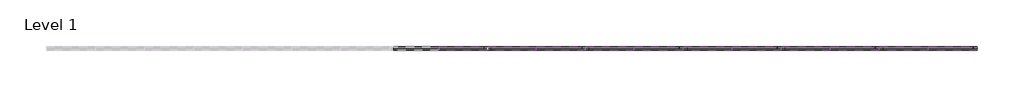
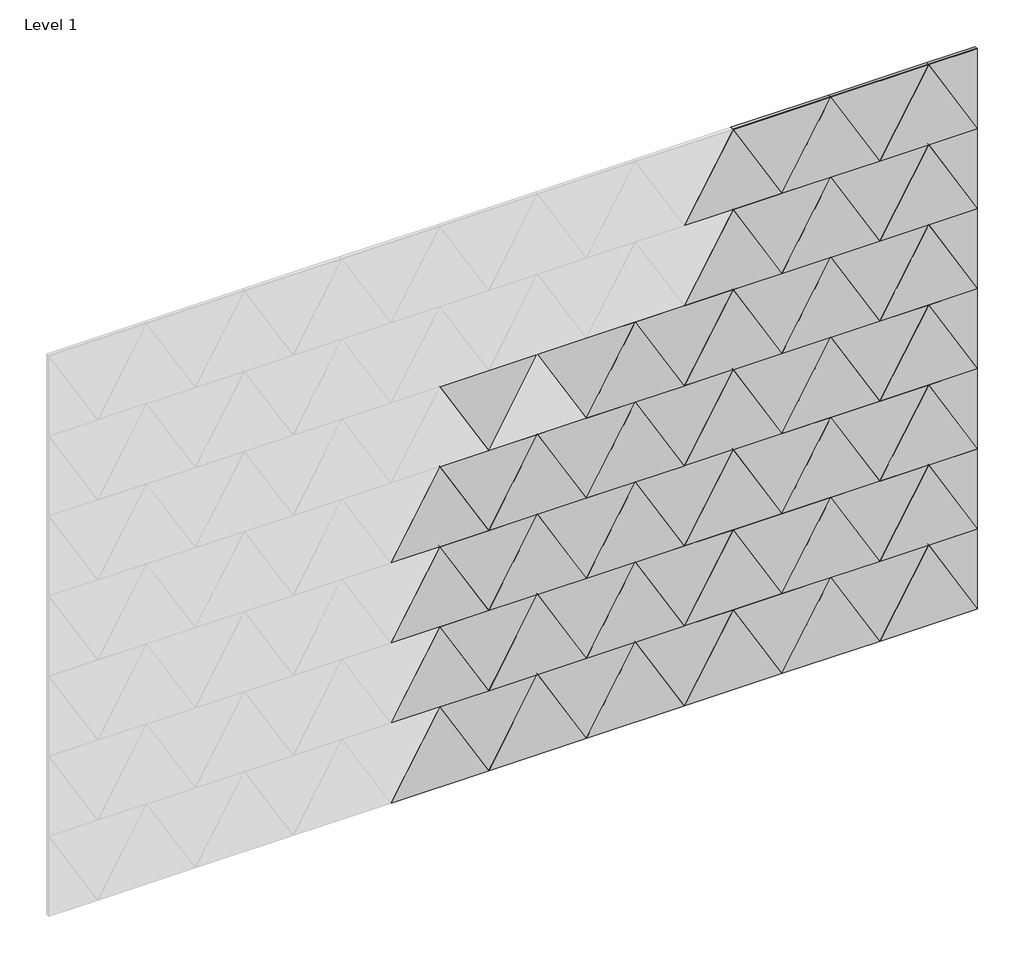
# One storey, part 2 of 2: 70 proxies.
"""IFC4 building model written with IfcOpenShell, lengths in millimetres."""

from ifc_helpers import new_model, si_unit, origin, place, context, project, spatial, transform, mapped, element, save
from components import triangle_60_block_95fa7baf, triangle_60_block_31d98bf3

model = new_model("IFC4")

# Units and contexts
model_context = context("Model", 3, world=origin())
ifc_project = project(units=[si_unit("LENGTHUNIT", "METRE", prefix="MILLI")], contexts=[model_context])

# Site, building, storey
site = spatial("IfcSite", under=ifc_project)
building = spatial("IfcBuilding", under=site)
storey = spatial("IfcBuildingStorey", under=building, Name="Level 1", Elevation=0.0)

# Proxies
placement = place(None, origin())
triangle_60_block_shape = triangle_60_block_95fa7baf(model_context)
element("IfcBuildingElementProxy", 1, Name="FilzFelt_Triangle_60_Block : Triangle 60 Block", ObjectType="FilzFelt_Triangle_60_Block : Triangle 60 Block", at=placement, inside=storey, context=model_context, shape_type="MappedRepresentation", body=[
    mapped(triangle_60_block_shape, transform((49120.93659, -3215.9647205, 2243.3090029), x_axis=(1.0, 0.0, 0.0), y_axis=(0.0, 0.0, 1.0), z_axis=(0.0, -1.0, 0.0))),
])
element("IfcBuildingElementProxy", 2, Name="FilzFelt_Triangle_60_Block : Triangle 60 Block", ObjectType="FilzFelt_Triangle_60_Block : Triangle 60 Block", at=placement, inside=storey, context=model_context, shape_type="MappedRepresentation", body=[
    mapped(triangle_60_block_shape, transform((49473.36159, -3215.9647205, 2243.3090029), x_axis=(1.0, 0.0, 0.0), y_axis=(0.0, 0.0, 1.0), z_axis=(0.0, -1.0, 0.0))),
])
element("IfcBuildingElementProxy", 3, Name="FilzFelt_Triangle_60_Block : Triangle 60 Block", ObjectType="FilzFelt_Triangle_60_Block : Triangle 60 Block", at=placement, inside=storey, context=model_context, shape_type="MappedRepresentation", body=[
    mapped(triangle_60_block_shape, transform((49297.14909, -3215.9647205, 1938.3090029), x_axis=(-1.0, 0.0, 0.0), y_axis=(0.0, 0.0, -1.0), z_axis=(0.0, -1.0, 0.0))),
])
element("IfcBuildingElementProxy", 4, Name="FilzFelt_Triangle_60_Block : Triangle 60 Block", ObjectType="FilzFelt_Triangle_60_Block : Triangle 60 Block", at=placement, inside=storey, context=model_context, shape_type="MappedRepresentation", body=[
    mapped(triangle_60_block_shape, transform((48768.51159, -3215.9647205, 1632.8909971), x_axis=(1.0, 0.0, 0.0), y_axis=(0.0, 0.0, 1.0), z_axis=(0.0, -1.0, 0.0))),
])
element("IfcBuildingElementProxy", 5, Name="FilzFelt_Triangle_60_Block : Triangle 60 Block", ObjectType="FilzFelt_Triangle_60_Block : Triangle 60 Block", at=placement, inside=storey, context=model_context, shape_type="MappedRepresentation", body=[
    mapped(triangle_60_block_shape, transform((49120.93659, -3215.9647205, 1632.8909971), x_axis=(1.0, 0.0, 0.0), y_axis=(0.0, 0.0, 1.0), z_axis=(0.0, -1.0, 0.0))),
])
element("IfcBuildingElementProxy", 6, Name="FilzFelt_Triangle_60_Block : Triangle 60 Block", ObjectType="FilzFelt_Triangle_60_Block : Triangle 60 Block", at=placement, inside=storey, context=model_context, shape_type="MappedRepresentation", body=[
    mapped(triangle_60_block_shape, transform((49473.36159, -3215.9647205, 1632.8909971), x_axis=(1.0, 0.0, 0.0), y_axis=(0.0, 0.0, 1.0), z_axis=(0.0, -1.0, 0.0))),
])
element("IfcBuildingElementProxy", 7, Name="FilzFelt_Triangle_60_Block : Triangle 60 Block", ObjectType="FilzFelt_Triangle_60_Block : Triangle 60 Block", at=placement, inside=storey, context=model_context, shape_type="MappedRepresentation", body=[
    mapped(triangle_60_block_shape, transform((48239.87409, -3215.9647205, 1327.8909971), x_axis=(-1.0, 0.0, 0.0), y_axis=(0.0, 0.0, -1.0), z_axis=(0.0, -1.0, 0.0))),
])
element("IfcBuildingElementProxy", 8, Name="FilzFelt_Triangle_60_Block : Triangle 60 Block", ObjectType="FilzFelt_Triangle_60_Block : Triangle 60 Block", at=placement, inside=storey, context=model_context, shape_type="MappedRepresentation", body=[
    mapped(triangle_60_block_shape, transform((48592.29909, -3215.9647205, 1327.8909971), x_axis=(-1.0, 0.0, 0.0), y_axis=(0.0, 0.0, -1.0), z_axis=(0.0, -1.0, 0.0))),
])
element("IfcBuildingElementProxy", 9, Name="FilzFelt_Triangle_60_Block : Triangle 60 Block", ObjectType="FilzFelt_Triangle_60_Block : Triangle 60 Block", at=placement, inside=storey, context=model_context, shape_type="MappedRepresentation", body=[
    mapped(triangle_60_block_shape, transform((48944.72409, -3215.9647205, 1327.8909971), x_axis=(-1.0, 0.0, 0.0), y_axis=(0.0, 0.0, -1.0), z_axis=(0.0, -1.0, 0.0))),
])
element("IfcBuildingElementProxy", 10, Name="FilzFelt_Triangle_60_Block : Triangle 60 Block", ObjectType="FilzFelt_Triangle_60_Block : Triangle 60 Block", at=placement, inside=storey, context=model_context, shape_type="MappedRepresentation", body=[
    mapped(triangle_60_block_shape, transform((49297.14909, -3215.9647205, 1327.8909971), x_axis=(-1.0, 0.0, 0.0), y_axis=(0.0, 0.0, -1.0), z_axis=(0.0, -1.0, 0.0))),
])
element("IfcBuildingElementProxy", 11, Name="FilzFelt_Triangle_60_Block : Triangle 60 Block", ObjectType="FilzFelt_Triangle_60_Block : Triangle 60 Block", at=placement, inside=storey, context=model_context, shape_type="MappedRepresentation", body=[
    mapped(triangle_60_block_shape, transform((48063.66159, -3215.9647205, 1022.4729912), x_axis=(1.0, 0.0, 0.0), y_axis=(0.0, 0.0, 1.0), z_axis=(0.0, -1.0, 0.0))),
])
element("IfcBuildingElementProxy", 12, Name="FilzFelt_Triangle_60_Block : Triangle 60 Block", ObjectType="FilzFelt_Triangle_60_Block : Triangle 60 Block", at=placement, inside=storey, context=model_context, shape_type="MappedRepresentation", body=[
    mapped(triangle_60_block_shape, transform((48416.08659, -3215.9647205, 1022.4729912), x_axis=(1.0, 0.0, 0.0), y_axis=(0.0, 0.0, 1.0), z_axis=(0.0, -1.0, 0.0))),
])
element("IfcBuildingElementProxy", 13, Name="FilzFelt_Triangle_60_Block : Triangle 60 Block", ObjectType="FilzFelt_Triangle_60_Block : Triangle 60 Block", at=placement, inside=storey, context=model_context, shape_type="MappedRepresentation", body=[
    mapped(triangle_60_block_shape, transform((48768.51159, -3215.9647205, 1022.4729912), x_axis=(1.0, 0.0, 0.0), y_axis=(0.0, 0.0, 1.0), z_axis=(0.0, -1.0, 0.0))),
])
element("IfcBuildingElementProxy", 14, Name="FilzFelt_Triangle_60_Block : Triangle 60 Block", ObjectType="FilzFelt_Triangle_60_Block : Triangle 60 Block", at=placement, inside=storey, context=model_context, shape_type="MappedRepresentation", body=[
    mapped(triangle_60_block_shape, transform((49120.93659, -3215.9647205, 1022.4729912), x_axis=(1.0, 0.0, 0.0), y_axis=(0.0, 0.0, 1.0), z_axis=(0.0, -1.0, 0.0))),
])
element("IfcBuildingElementProxy", 15, Name="FilzFelt_Triangle_60_Block : Triangle 60 Block", ObjectType="FilzFelt_Triangle_60_Block : Triangle 60 Block", at=placement, inside=storey, context=model_context, shape_type="MappedRepresentation", body=[
    mapped(triangle_60_block_shape, transform((49473.36159, -3215.9647205, 1022.4729912), x_axis=(1.0, 0.0, 0.0), y_axis=(0.0, 0.0, 1.0), z_axis=(0.0, -1.0, 0.0))),
])
element("IfcBuildingElementProxy", 16, Name="FilzFelt_Triangle_60_Block : Triangle 60 Block", ObjectType="FilzFelt_Triangle_60_Block : Triangle 60 Block", at=placement, inside=storey, context=model_context, shape_type="MappedRepresentation", body=[
    mapped(triangle_60_block_shape, transform((48239.87409, -3215.9647205, 717.4729912), x_axis=(-1.0, 0.0, 0.0), y_axis=(0.0, 0.0, -1.0), z_axis=(0.0, -1.0, 0.0))),
])
element("IfcBuildingElementProxy", 17, Name="FilzFelt_Triangle_60_Block : Triangle 60 Block", ObjectType="FilzFelt_Triangle_60_Block : Triangle 60 Block", at=placement, inside=storey, context=model_context, shape_type="MappedRepresentation", body=[
    mapped(triangle_60_block_shape, transform((48592.29909, -3215.9647205, 717.4729912), x_axis=(-1.0, 0.0, 0.0), y_axis=(0.0, 0.0, -1.0), z_axis=(0.0, -1.0, 0.0))),
])
element("IfcBuildingElementProxy", 18, Name="FilzFelt_Triangle_60_Block : Triangle 60 Block", ObjectType="FilzFelt_Triangle_60_Block : Triangle 60 Block", at=placement, inside=storey, context=model_context, shape_type="MappedRepresentation", body=[
    mapped(triangle_60_block_shape, transform((48944.72409, -3215.9647205, 717.4729912), x_axis=(-1.0, 0.0, 0.0), y_axis=(0.0, 0.0, -1.0), z_axis=(0.0, -1.0, 0.0))),
])
element("IfcBuildingElementProxy", 19, Name="FilzFelt_Triangle_60_Block : Triangle 60 Block", ObjectType="FilzFelt_Triangle_60_Block : Triangle 60 Block", at=placement, inside=storey, context=model_context, shape_type="MappedRepresentation", body=[
    mapped(triangle_60_block_shape, transform((49297.14909, -3215.9647205, 717.4729912), x_axis=(-1.0, 0.0, 0.0), y_axis=(0.0, 0.0, -1.0), z_axis=(0.0, -1.0, 0.0))),
])
element("IfcBuildingElementProxy", 20, Name="FilzFelt_Triangle_60_Block : Triangle 60 Block", ObjectType="FilzFelt_Triangle_60_Block : Triangle 60 Block", at=placement, inside=storey, context=model_context, shape_type="MappedRepresentation", body=[
    mapped(triangle_60_block_shape, transform((49825.78659, -3215.9647205, 2243.3090029), x_axis=(1.0, 0.0, 0.0), y_axis=(0.0, 0.0, 1.0), z_axis=(0.0, -1.0, 0.0))),
])
element("IfcBuildingElementProxy", 21, Name="FilzFelt_Triangle_60_Block : Triangle 60 Block", ObjectType="FilzFelt_Triangle_60_Block : Triangle 60 Block", at=placement, inside=storey, context=model_context, shape_type="MappedRepresentation", body=[
    mapped(triangle_60_block_shape, transform((49825.78659, -3215.9647205, 1632.8909971), x_axis=(1.0, 0.0, 0.0), y_axis=(0.0, 0.0, 1.0), z_axis=(0.0, -1.0, 0.0))),
])
element("IfcBuildingElementProxy", 22, Name="FilzFelt_Triangle_60_Block : Triangle 60 Block", ObjectType="FilzFelt_Triangle_60_Block : Triangle 60 Block", at=placement, inside=storey, context=model_context, shape_type="MappedRepresentation", body=[
    mapped(triangle_60_block_shape, transform((49825.78659, -3215.9647205, 1022.4729912), x_axis=(1.0, 0.0, 0.0), y_axis=(0.0, 0.0, 1.0), z_axis=(0.0, -1.0, 0.0))),
])
element("IfcBuildingElementProxy", 23, Name="FilzFelt_Triangle_60_Block : Triangle 60 Block", ObjectType="FilzFelt_Triangle_60_Block : Triangle 60 Block", at=placement, inside=storey, context=model_context, shape_type="MappedRepresentation", body=[
    mapped(triangle_60_block_shape, transform((49649.57409, -3215.9647205, 1938.3090029), x_axis=(-1.0, 0.0, 0.0), y_axis=(0.0, 0.0, -1.0), z_axis=(0.0, -1.0, 0.0))),
])
element("IfcBuildingElementProxy", 24, Name="FilzFelt_Triangle_60_Block : Triangle 60 Block", ObjectType="FilzFelt_Triangle_60_Block : Triangle 60 Block", at=placement, inside=storey, context=model_context, shape_type="MappedRepresentation", body=[
    mapped(triangle_60_block_shape, transform((49649.57409, -3215.9647205, 1327.8909971), x_axis=(-1.0, 0.0, 0.0), y_axis=(0.0, 0.0, -1.0), z_axis=(0.0, -1.0, 0.0))),
])
element("IfcBuildingElementProxy", 25, Name="FilzFelt_Triangle_60_Block : Triangle 60 Block", ObjectType="FilzFelt_Triangle_60_Block : Triangle 60 Block", at=placement, inside=storey, context=model_context, shape_type="MappedRepresentation", body=[
    mapped(triangle_60_block_shape, transform((49649.57409, -3215.9647205, 717.4729912), x_axis=(-1.0, 0.0, 0.0), y_axis=(0.0, 0.0, -1.0), z_axis=(0.0, -1.0, 0.0))),
])
element("IfcBuildingElementProxy", 26, Name="FilzFelt_Triangle_60_Block : Triangle 60 Block", ObjectType="FilzFelt_Triangle_60_Block : Triangle 60 Block", at=placement, inside=storey, context=model_context, shape_type="MappedRepresentation", body=[
    mapped(triangle_60_block_shape, transform((48063.66159, -3215.9647205, 412.0549854), x_axis=(1.0, 0.0, 0.0), y_axis=(0.0, 0.0, 1.0), z_axis=(0.0, -1.0, 0.0))),
])
element("IfcBuildingElementProxy", 27, Name="FilzFelt_Triangle_60_Block : Triangle 60 Block", ObjectType="FilzFelt_Triangle_60_Block : Triangle 60 Block", at=placement, inside=storey, context=model_context, shape_type="MappedRepresentation", body=[
    mapped(triangle_60_block_shape, transform((48416.08659, -3215.9647205, 412.0549854), x_axis=(1.0, 0.0, 0.0), y_axis=(0.0, 0.0, 1.0), z_axis=(0.0, -1.0, 0.0))),
])
element("IfcBuildingElementProxy", 28, Name="FilzFelt_Triangle_60_Block : Triangle 60 Block", ObjectType="FilzFelt_Triangle_60_Block : Triangle 60 Block", at=placement, inside=storey, context=model_context, shape_type="MappedRepresentation", body=[
    mapped(triangle_60_block_shape, transform((48768.51159, -3215.9647205, 412.0549854), x_axis=(1.0, 0.0, 0.0), y_axis=(0.0, 0.0, 1.0), z_axis=(0.0, -1.0, 0.0))),
])
element("IfcBuildingElementProxy", 29, Name="FilzFelt_Triangle_60_Block : Triangle 60 Block", ObjectType="FilzFelt_Triangle_60_Block : Triangle 60 Block", at=placement, inside=storey, context=model_context, shape_type="MappedRepresentation", body=[
    mapped(triangle_60_block_shape, transform((49120.93659, -3215.9647205, 412.0549854), x_axis=(1.0, 0.0, 0.0), y_axis=(0.0, 0.0, 1.0), z_axis=(0.0, -1.0, 0.0))),
])
element("IfcBuildingElementProxy", 30, Name="FilzFelt_Triangle_60_Block : Triangle 60 Block", ObjectType="FilzFelt_Triangle_60_Block : Triangle 60 Block", at=placement, inside=storey, context=model_context, shape_type="MappedRepresentation", body=[
    mapped(triangle_60_block_shape, transform((49473.36159, -3215.9647205, 412.0549854), x_axis=(1.0, 0.0, 0.0), y_axis=(0.0, 0.0, 1.0), z_axis=(0.0, -1.0, 0.0))),
])
element("IfcBuildingElementProxy", 31, Name="FilzFelt_Triangle_60_Block : Triangle 60 Block", ObjectType="FilzFelt_Triangle_60_Block : Triangle 60 Block", at=placement, inside=storey, context=model_context, shape_type="MappedRepresentation", body=[
    mapped(triangle_60_block_shape, transform((49825.78659, -3215.9647205, 412.0549854), x_axis=(1.0, 0.0, 0.0), y_axis=(0.0, 0.0, 1.0), z_axis=(0.0, -1.0, 0.0))),
])
element("IfcBuildingElementProxy", 32, Name="FilzFelt_Triangle_60_Block : Triangle 60 Block", ObjectType="FilzFelt_Triangle_60_Block : Triangle 60 Block", at=placement, inside=storey, context=model_context, shape_type="MappedRepresentation", body=[
    mapped(triangle_60_block_shape, transform((49297.14909, -3215.9647205, 2243.5180059), x_axis=(-1.0, 0.0, 0.0), y_axis=(0.0, 0.0, -1.0), z_axis=(0.0, -1.0, 0.0))),
])
element("IfcBuildingElementProxy", 33, Name="FilzFelt_Triangle_60_Block : Triangle 60 Block", ObjectType="FilzFelt_Triangle_60_Block : Triangle 60 Block", at=placement, inside=storey, context=model_context, shape_type="MappedRepresentation", body=[
    mapped(triangle_60_block_shape, transform((49120.93659, -3215.9647205, 1938.1), x_axis=(1.0, 0.0, 0.0), y_axis=(0.0, 0.0, 1.0), z_axis=(0.0, -1.0, 0.0))),
])
element("IfcBuildingElementProxy", 34, Name="FilzFelt_Triangle_60_Block : Triangle 60 Block", ObjectType="FilzFelt_Triangle_60_Block : Triangle 60 Block", at=placement, inside=storey, context=model_context, shape_type="MappedRepresentation", body=[
    mapped(triangle_60_block_shape, transform((49473.36159, -3215.9647205, 1938.1), x_axis=(1.0, 0.0, 0.0), y_axis=(0.0, 0.0, 1.0), z_axis=(0.0, -1.0, 0.0))),
])
element("IfcBuildingElementProxy", 35, Name="FilzFelt_Triangle_60_Block : Triangle 60 Block", ObjectType="FilzFelt_Triangle_60_Block : Triangle 60 Block", at=placement, inside=storey, context=model_context, shape_type="MappedRepresentation", body=[
    mapped(triangle_60_block_shape, transform((48239.87409, -3215.9647205, 1633.1), x_axis=(-1.0, 0.0, 0.0), y_axis=(0.0, 0.0, -1.0), z_axis=(0.0, -1.0, 0.0))),
])
element("IfcBuildingElementProxy", 36, Name="FilzFelt_Triangle_60_Block : Triangle 60 Block", ObjectType="FilzFelt_Triangle_60_Block : Triangle 60 Block", at=placement, inside=storey, context=model_context, shape_type="MappedRepresentation", body=[
    mapped(triangle_60_block_shape, transform((48592.29909, -3215.9647205, 1633.1), x_axis=(-1.0, 0.0, 0.0), y_axis=(0.0, 0.0, -1.0), z_axis=(0.0, -1.0, 0.0))),
])
element("IfcBuildingElementProxy", 37, Name="FilzFelt_Triangle_60_Block : Triangle 60 Block", ObjectType="FilzFelt_Triangle_60_Block : Triangle 60 Block", at=placement, inside=storey, context=model_context, shape_type="MappedRepresentation", body=[
    mapped(triangle_60_block_shape, transform((48944.72409, -3215.9647205, 1633.1), x_axis=(-1.0, 0.0, 0.0), y_axis=(0.0, 0.0, -1.0), z_axis=(0.0, -1.0, 0.0))),
])
element("IfcBuildingElementProxy", 38, Name="FilzFelt_Triangle_60_Block : Triangle 60 Block", ObjectType="FilzFelt_Triangle_60_Block : Triangle 60 Block", at=placement, inside=storey, context=model_context, shape_type="MappedRepresentation", body=[
    mapped(triangle_60_block_shape, transform((49297.14909, -3215.9647205, 1633.1), x_axis=(-1.0, 0.0, 0.0), y_axis=(0.0, 0.0, -1.0), z_axis=(0.0, -1.0, 0.0))),
])
element("IfcBuildingElementProxy", 39, Name="FilzFelt_Triangle_60_Block : Triangle 60 Block", ObjectType="FilzFelt_Triangle_60_Block : Triangle 60 Block", at=placement, inside=storey, context=model_context, shape_type="MappedRepresentation", body=[
    mapped(triangle_60_block_shape, transform((48063.66159, -3215.9647205, 1327.6819941), x_axis=(1.0, 0.0, 0.0), y_axis=(0.0, 0.0, 1.0), z_axis=(0.0, -1.0, 0.0))),
])
element("IfcBuildingElementProxy", 40, Name="FilzFelt_Triangle_60_Block : Triangle 60 Block", ObjectType="FilzFelt_Triangle_60_Block : Triangle 60 Block", at=placement, inside=storey, context=model_context, shape_type="MappedRepresentation", body=[
    mapped(triangle_60_block_shape, transform((48416.08659, -3215.9647205, 1327.6819941), x_axis=(1.0, 0.0, 0.0), y_axis=(0.0, 0.0, 1.0), z_axis=(0.0, -1.0, 0.0))),
])
element("IfcBuildingElementProxy", 41, Name="FilzFelt_Triangle_60_Block : Triangle 60 Block", ObjectType="FilzFelt_Triangle_60_Block : Triangle 60 Block", at=placement, inside=storey, context=model_context, shape_type="MappedRepresentation", body=[
    mapped(triangle_60_block_shape, transform((48768.51159, -3215.9647205, 1327.6819941), x_axis=(1.0, 0.0, 0.0), y_axis=(0.0, 0.0, 1.0), z_axis=(0.0, -1.0, 0.0))),
])
element("IfcBuildingElementProxy", 42, Name="FilzFelt_Triangle_60_Block : Triangle 60 Block", ObjectType="FilzFelt_Triangle_60_Block : Triangle 60 Block", at=placement, inside=storey, context=model_context, shape_type="MappedRepresentation", body=[
    mapped(triangle_60_block_shape, transform((49120.93659, -3215.9647205, 1327.6819941), x_axis=(1.0, 0.0, 0.0), y_axis=(0.0, 0.0, 1.0), z_axis=(0.0, -1.0, 0.0))),
])
element("IfcBuildingElementProxy", 43, Name="FilzFelt_Triangle_60_Block : Triangle 60 Block", ObjectType="FilzFelt_Triangle_60_Block : Triangle 60 Block", at=placement, inside=storey, context=model_context, shape_type="MappedRepresentation", body=[
    mapped(triangle_60_block_shape, transform((49473.36159, -3215.9647205, 1327.6819941), x_axis=(1.0, 0.0, 0.0), y_axis=(0.0, 0.0, 1.0), z_axis=(0.0, -1.0, 0.0))),
])
element("IfcBuildingElementProxy", 44, Name="FilzFelt_Triangle_60_Block : Triangle 60 Block", ObjectType="FilzFelt_Triangle_60_Block : Triangle 60 Block", at=placement, inside=storey, context=model_context, shape_type="MappedRepresentation", body=[
    mapped(triangle_60_block_shape, transform((48239.87409, -3215.9647205, 1022.6819941), x_axis=(-1.0, 0.0, 0.0), y_axis=(0.0, 0.0, -1.0), z_axis=(0.0, -1.0, 0.0))),
])
element("IfcBuildingElementProxy", 45, Name="FilzFelt_Triangle_60_Block : Triangle 60 Block", ObjectType="FilzFelt_Triangle_60_Block : Triangle 60 Block", at=placement, inside=storey, context=model_context, shape_type="MappedRepresentation", body=[
    mapped(triangle_60_block_shape, transform((48592.29909, -3215.9647205, 1022.6819941), x_axis=(-1.0, 0.0, 0.0), y_axis=(0.0, 0.0, -1.0), z_axis=(0.0, -1.0, 0.0))),
])
element("IfcBuildingElementProxy", 46, Name="FilzFelt_Triangle_60_Block : Triangle 60 Block", ObjectType="FilzFelt_Triangle_60_Block : Triangle 60 Block", at=placement, inside=storey, context=model_context, shape_type="MappedRepresentation", body=[
    mapped(triangle_60_block_shape, transform((48944.72409, -3215.9647205, 1022.6819941), x_axis=(-1.0, 0.0, 0.0), y_axis=(0.0, 0.0, -1.0), z_axis=(0.0, -1.0, 0.0))),
])
element("IfcBuildingElementProxy", 47, Name="FilzFelt_Triangle_60_Block : Triangle 60 Block", ObjectType="FilzFelt_Triangle_60_Block : Triangle 60 Block", at=placement, inside=storey, context=model_context, shape_type="MappedRepresentation", body=[
    mapped(triangle_60_block_shape, transform((49297.14909, -3215.9647205, 1022.6819941), x_axis=(-1.0, 0.0, 0.0), y_axis=(0.0, 0.0, -1.0), z_axis=(0.0, -1.0, 0.0))),
])
element("IfcBuildingElementProxy", 48, Name="FilzFelt_Triangle_60_Block : Triangle 60 Block", ObjectType="FilzFelt_Triangle_60_Block : Triangle 60 Block", at=placement, inside=storey, context=model_context, shape_type="MappedRepresentation", body=[
    mapped(triangle_60_block_shape, transform((48063.66159, -3215.9647205, 717.2639883), x_axis=(1.0, 0.0, 0.0), y_axis=(0.0, 0.0, 1.0), z_axis=(0.0, -1.0, 0.0))),
])
element("IfcBuildingElementProxy", 49, Name="FilzFelt_Triangle_60_Block : Triangle 60 Block", ObjectType="FilzFelt_Triangle_60_Block : Triangle 60 Block", at=placement, inside=storey, context=model_context, shape_type="MappedRepresentation", body=[
    mapped(triangle_60_block_shape, transform((48416.08659, -3215.9647205, 717.2639883), x_axis=(1.0, 0.0, 0.0), y_axis=(0.0, 0.0, 1.0), z_axis=(0.0, -1.0, 0.0))),
])
element("IfcBuildingElementProxy", 50, Name="FilzFelt_Triangle_60_Block : Triangle 60 Block", ObjectType="FilzFelt_Triangle_60_Block : Triangle 60 Block", at=placement, inside=storey, context=model_context, shape_type="MappedRepresentation", body=[
    mapped(triangle_60_block_shape, transform((48768.51159, -3215.9647205, 717.2639883), x_axis=(1.0, 0.0, 0.0), y_axis=(0.0, 0.0, 1.0), z_axis=(0.0, -1.0, 0.0))),
])
element("IfcBuildingElementProxy", 51, Name="FilzFelt_Triangle_60_Block : Triangle 60 Block", ObjectType="FilzFelt_Triangle_60_Block : Triangle 60 Block", at=placement, inside=storey, context=model_context, shape_type="MappedRepresentation", body=[
    mapped(triangle_60_block_shape, transform((49120.93659, -3215.9647205, 717.2639883), x_axis=(1.0, 0.0, 0.0), y_axis=(0.0, 0.0, 1.0), z_axis=(0.0, -1.0, 0.0))),
])
element("IfcBuildingElementProxy", 52, Name="FilzFelt_Triangle_60_Block : Triangle 60 Block", ObjectType="FilzFelt_Triangle_60_Block : Triangle 60 Block", at=placement, inside=storey, context=model_context, shape_type="MappedRepresentation", body=[
    mapped(triangle_60_block_shape, transform((49473.36159, -3215.9647205, 717.2639883), x_axis=(1.0, 0.0, 0.0), y_axis=(0.0, 0.0, 1.0), z_axis=(0.0, -1.0, 0.0))),
])
element("IfcBuildingElementProxy", 53, Name="FilzFelt_Triangle_60_Block : Triangle 60 Block", ObjectType="FilzFelt_Triangle_60_Block : Triangle 60 Block", at=placement, inside=storey, context=model_context, shape_type="MappedRepresentation", body=[
    mapped(triangle_60_block_shape, transform((49825.78659, -3215.9647205, 1938.1), x_axis=(1.0, 0.0, 0.0), y_axis=(0.0, 0.0, 1.0), z_axis=(0.0, -1.0, 0.0))),
])
element("IfcBuildingElementProxy", 54, Name="FilzFelt_Triangle_60_Block : Triangle 60 Block", ObjectType="FilzFelt_Triangle_60_Block : Triangle 60 Block", at=placement, inside=storey, context=model_context, shape_type="MappedRepresentation", body=[
    mapped(triangle_60_block_shape, transform((49825.78659, -3215.9647205, 1327.6819941), x_axis=(1.0, 0.0, 0.0), y_axis=(0.0, 0.0, 1.0), z_axis=(0.0, -1.0, 0.0))),
])
element("IfcBuildingElementProxy", 55, Name="FilzFelt_Triangle_60_Block : Triangle 60 Block", ObjectType="FilzFelt_Triangle_60_Block : Triangle 60 Block", at=placement, inside=storey, context=model_context, shape_type="MappedRepresentation", body=[
    mapped(triangle_60_block_shape, transform((49825.78659, -3215.9647205, 717.2639883), x_axis=(1.0, 0.0, 0.0), y_axis=(0.0, 0.0, 1.0), z_axis=(0.0, -1.0, 0.0))),
])
element("IfcBuildingElementProxy", 56, Name="FilzFelt_Triangle_60_Block : Triangle 60 Block", ObjectType="FilzFelt_Triangle_60_Block : Triangle 60 Block", at=placement, inside=storey, context=model_context, shape_type="MappedRepresentation", body=[
    mapped(triangle_60_block_shape, transform((49649.57409, -3215.9647205, 2243.5180059), x_axis=(-1.0, 0.0, 0.0), y_axis=(0.0, 0.0, -1.0), z_axis=(0.0, -1.0, 0.0))),
])
element("IfcBuildingElementProxy", 57, Name="FilzFelt_Triangle_60_Block : Triangle 60 Block", ObjectType="FilzFelt_Triangle_60_Block : Triangle 60 Block", at=placement, inside=storey, context=model_context, shape_type="MappedRepresentation", body=[
    mapped(triangle_60_block_shape, transform((49649.57409, -3215.9647205, 1633.1), x_axis=(-1.0, 0.0, 0.0), y_axis=(0.0, 0.0, -1.0), z_axis=(0.0, -1.0, 0.0))),
])
element("IfcBuildingElementProxy", 58, Name="FilzFelt_Triangle_60_Block : Triangle 60 Block", ObjectType="FilzFelt_Triangle_60_Block : Triangle 60 Block", at=placement, inside=storey, context=model_context, shape_type="MappedRepresentation", body=[
    mapped(triangle_60_block_shape, transform((49649.57409, -3215.9647205, 1022.6819941), x_axis=(-1.0, 0.0, 0.0), y_axis=(0.0, 0.0, -1.0), z_axis=(0.0, -1.0, 0.0))),
])
element("IfcBuildingElementProxy", 59, Name="FilzFelt_Triangle_60_Block : Triangle 60 Block", ObjectType="FilzFelt_Triangle_60_Block : Triangle 60 Block", at=placement, inside=storey, context=model_context, shape_type="MappedRepresentation", body=[
    mapped(triangle_60_block_shape, transform((48239.87409, -3215.9647205, 412.2639883), x_axis=(-1.0, 0.0, 0.0), y_axis=(0.0, 0.0, -1.0), z_axis=(0.0, -1.0, 0.0))),
])
element("IfcBuildingElementProxy", 60, Name="FilzFelt_Triangle_60_Block : Triangle 60 Block", ObjectType="FilzFelt_Triangle_60_Block : Triangle 60 Block", at=placement, inside=storey, context=model_context, shape_type="MappedRepresentation", body=[
    mapped(triangle_60_block_shape, transform((48592.29909, -3215.9647205, 412.2639883), x_axis=(-1.0, 0.0, 0.0), y_axis=(0.0, 0.0, -1.0), z_axis=(0.0, -1.0, 0.0))),
])
element("IfcBuildingElementProxy", 61, Name="FilzFelt_Triangle_60_Block : Triangle 60 Block", ObjectType="FilzFelt_Triangle_60_Block : Triangle 60 Block", at=placement, inside=storey, context=model_context, shape_type="MappedRepresentation", body=[
    mapped(triangle_60_block_shape, transform((48944.72409, -3215.9647205, 412.2639883), x_axis=(-1.0, 0.0, 0.0), y_axis=(0.0, 0.0, -1.0), z_axis=(0.0, -1.0, 0.0))),
])
element("IfcBuildingElementProxy", 62, Name="FilzFelt_Triangle_60_Block : Triangle 60 Block", ObjectType="FilzFelt_Triangle_60_Block : Triangle 60 Block", at=placement, inside=storey, context=model_context, shape_type="MappedRepresentation", body=[
    mapped(triangle_60_block_shape, transform((49297.14909, -3215.9647205, 412.2639883), x_axis=(-1.0, 0.0, 0.0), y_axis=(0.0, 0.0, -1.0), z_axis=(0.0, -1.0, 0.0))),
])
element("IfcBuildingElementProxy", 63, Name="FilzFelt_Triangle_60_Block : Triangle 60 Block", ObjectType="FilzFelt_Triangle_60_Block : Triangle 60 Block", at=placement, inside=storey, context=model_context, shape_type="MappedRepresentation", body=[
    mapped(triangle_60_block_shape, transform((49649.57409, -3215.9647205, 412.2639883), x_axis=(-1.0, 0.0, 0.0), y_axis=(0.0, 0.0, -1.0), z_axis=(0.0, -1.0, 0.0))),
])
triangle_60_block_2_shape = triangle_60_block_31d98bf3(model_context)
element("IfcBuildingElementProxy", 64, Name="FilzFelt_Triangle_60_Block : Triangle 60 Block", ObjectType="FilzFelt_Triangle_60_Block : Triangle 60 Block", at=placement, inside=storey, context=model_context, shape_type="MappedRepresentation", body=[
    mapped(triangle_60_block_2_shape, transform((50001.99909, -3215.9647205, 2243.5180059), x_axis=(-1.0, 0.0, 0.0), y_axis=(0.0, 0.0, -1.0), z_axis=(0.0, -1.0, 0.0))),
])
element("IfcBuildingElementProxy", 65, Name="FilzFelt_Triangle_60_Block : Triangle 60 Block", ObjectType="FilzFelt_Triangle_60_Block : Triangle 60 Block", at=placement, inside=storey, context=model_context, shape_type="MappedRepresentation", body=[
    mapped(triangle_60_block_2_shape, transform((50001.99909, -3215.9647205, 1633.1), x_axis=(-1.0, 0.0, 0.0), y_axis=(0.0, 0.0, -1.0), z_axis=(0.0, -1.0, 0.0))),
])
element("IfcBuildingElementProxy", 66, Name="FilzFelt_Triangle_60_Block : Triangle 60 Block", ObjectType="FilzFelt_Triangle_60_Block : Triangle 60 Block", at=placement, inside=storey, context=model_context, shape_type="MappedRepresentation", body=[
    mapped(triangle_60_block_2_shape, transform((50001.99909, -3215.9647205, 1022.6819941), x_axis=(-1.0, 0.0, 0.0), y_axis=(0.0, 0.0, -1.0), z_axis=(0.0, -1.0, 0.0))),
])
element("IfcBuildingElementProxy", 67, Name="FilzFelt_Triangle_60_Block : Triangle 60 Block", ObjectType="FilzFelt_Triangle_60_Block : Triangle 60 Block", at=placement, inside=storey, context=model_context, shape_type="MappedRepresentation", body=[
    mapped(triangle_60_block_2_shape, transform((50001.99909, -3215.9647205, 412.2639883), x_axis=(-1.0, 0.0, 0.0), y_axis=(0.0, 0.0, -1.0), z_axis=(0.0, -1.0, 0.0))),
])
element("IfcBuildingElementProxy", 68, Name="FilzFelt_Triangle_60_Block : Triangle 60 Block", ObjectType="FilzFelt_Triangle_60_Block : Triangle 60 Block", at=placement, inside=storey, context=model_context, shape_type="MappedRepresentation", body=[
    mapped(triangle_60_block_2_shape, transform((50001.99909, -3215.9647205, 1938.3090029), x_axis=(-1.0, 0.0, 0.0), y_axis=(0.0, 0.0, -1.0), z_axis=(0.0, -1.0, 0.0))),
])
element("IfcBuildingElementProxy", 69, Name="FilzFelt_Triangle_60_Block : Triangle 60 Block", ObjectType="FilzFelt_Triangle_60_Block : Triangle 60 Block", at=placement, inside=storey, context=model_context, shape_type="MappedRepresentation", body=[
    mapped(triangle_60_block_2_shape, transform((50001.99909, -3215.9647205, 1327.8909971), x_axis=(-1.0, 0.0, 0.0), y_axis=(0.0, 0.0, -1.0), z_axis=(0.0, -1.0, 0.0))),
])
element("IfcBuildingElementProxy", 70, Name="FilzFelt_Triangle_60_Block : Triangle 60 Block", ObjectType="FilzFelt_Triangle_60_Block : Triangle 60 Block", at=placement, inside=storey, context=model_context, shape_type="MappedRepresentation", body=[
    mapped(triangle_60_block_2_shape, transform((50001.99909, -3215.9647205, 717.4729912), x_axis=(-1.0, 0.0, 0.0), y_axis=(0.0, 0.0, -1.0), z_axis=(0.0, -1.0, 0.0))),
])

save(model, "model.ifc")
